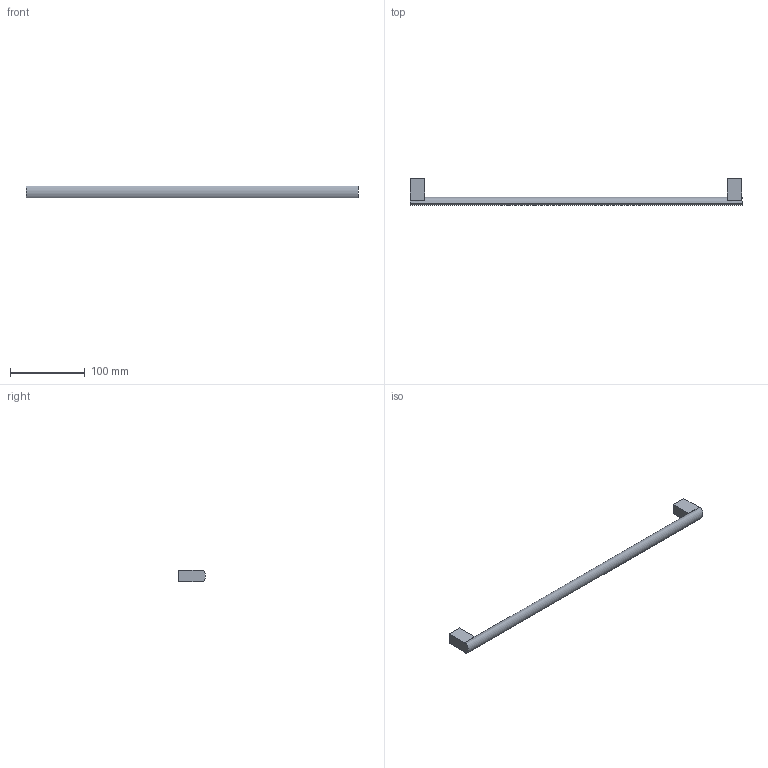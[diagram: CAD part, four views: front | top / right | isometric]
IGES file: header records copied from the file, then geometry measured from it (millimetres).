
Start section: Data from Parasolid IGES Translator 20.0.26, Copyright(c) 2006 Siemens P LM Software. All Rights Reserved.
Global section: file name: 115360.igs; native system: By Siemens PLM Incorporated; preprocessor: XPlus GENERIC/IGES 20.0.26; author: Noname; organization: Noname; date: 20230220.162325; units: millimetre
Bounding box: 444 x 35.96 x 16 mm (x, y, z)
Surface area: 23257.5 mm2 (no closed solid volume)
Topology: 0 solids, 0 shells, 22 faces, 102 edges, 100 vertices
Faces by surface type: extrusion 17, revolution 5
